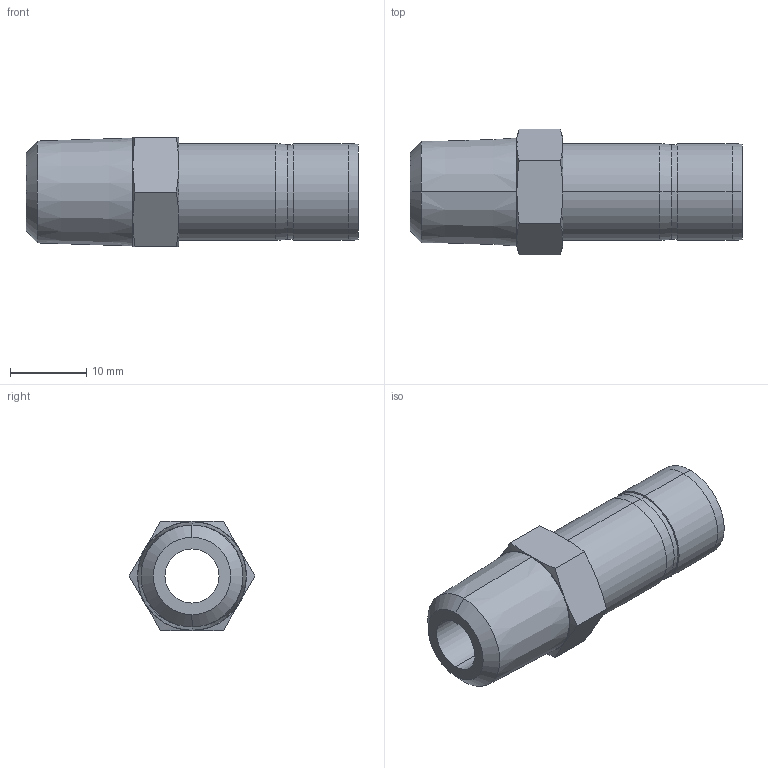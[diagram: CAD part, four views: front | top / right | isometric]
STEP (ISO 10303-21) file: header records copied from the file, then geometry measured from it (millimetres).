
FILE_DESCRIPTION (( 'STEP AP203' ), '1' );
FILE_NAME ('DHA08-04 SS.STEP', '2009-09-08T06:14:56', ( ' ' ), ( '' ), 'SwSTEP 2.0', 'SolidWorks 2008', '' );
FILE_SCHEMA (( 'CONFIG_CONTROL_DESIGN' ));
Length unit declared in the file: millimetre
Products named in the file (1): DHA08-04 SS
Bounding box: 43.5 x 16.5 x 14.29 mm (x, y, z)
Volume: 3334.4 mm3; surface area: 3233.2 mm2
Topology: 1 solids, 1 shells, 44 faces, 92 edges, 52 vertices
Faces by surface type: cone 24, cylinder 10, plane 10
Entity records: 1265 total; most frequent: CARTESIAN_POINT 269, DIRECTION 198, ORIENTED_EDGE 184, EDGE_CURVE 92, AXIS2_PLACEMENT_3D 85, VERTEX_POINT 52, EDGE_LOOP 48, ADVANCED_FACE 44
